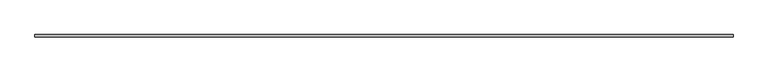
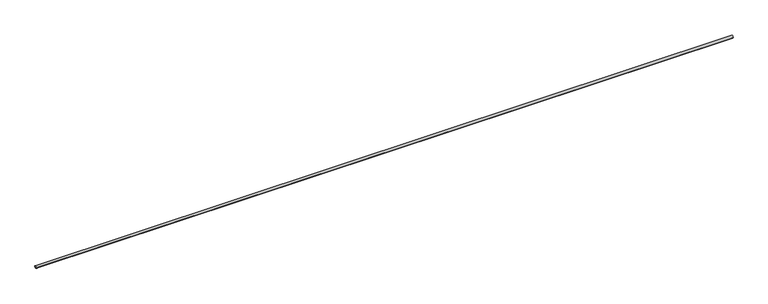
"""IFC4 building model written with IfcOpenShell, lengths in millimetres: railing geometry, Corrimão em aço."""

import ifcopenshell
import ifcopenshell.guid

model = None  # the IFC model being written
_history = None  # IfcOwnerHistory: only IFC2X3 demands one
_inside = {}  # id of a spatial element -> (the spatial element, [elements in it])
_under = {}  # id of a project, library or spatial element -> (it, [spatial elements below it])
_declared = {}  # id of a project -> (the project, [libraries it declares])
_typed = {}  # id of a type object -> (the type object, [elements of that type])
_made_of = {}  # id of a material, layer set ... -> (it, [elements and type objects made of it])


def new_model(schema):
    """Start an empty IFC model of exactly this schema.

    Asked for "IFC4X3", IfcOpenShell would pick the latest addendum, in which some entities
    have other attributes; the version numbers below select the first issue.
    IFC2X3 requires an IfcOwnerHistory on every rooted entity: one is made here for all.
    """
    global model, _history
    if schema == "IFC4X3":
        model = ifcopenshell.file(schema_version=(4, 3, 0, 0))
    else:
        model = ifcopenshell.file(schema=schema)
    _inside.clear()
    _under.clear()
    _declared.clear()
    _typed.clear()
    _made_of.clear()
    _history = None
    if model.schema == "IFC2X3":
        org = make("IfcOrganization", Name="unknown")
        user = make(
            "IfcPersonAndOrganization",
            ThePerson=make("IfcPerson", FamilyName="unknown"),
            TheOrganization=org,
        )
        app = make(
            "IfcApplication",
            ApplicationDeveloper=org,
            Version="unknown",
            ApplicationFullName="unknown",
            ApplicationIdentifier="unknown",
        )
        _history = make(
            "IfcOwnerHistory",
            OwningUser=user,
            OwningApplication=app,
            ChangeAction="ADDED",
            CreationDate=0,
        )
    return model


def make(cls, **values):
    """One entity of the class cls with the attributes given. An attribute that is None is left unset."""
    return model.create_entity(
        cls, **{name: value for name, value in values.items() if value is not None}
    )


def rooted(cls, **values):
    """An entity with a GlobalId (a new one), such as an element, a storey or a relation."""
    return make(cls, GlobalId=ifcopenshell.guid.new(), OwnerHistory=_history, **values)


def si_unit(unit_type, name, prefix=None):
    """IfcSIUnit, for example si_unit("LENGTHUNIT", "METRE", prefix="MILLI")."""
    return make("IfcSIUnit", UnitType=unit_type, Prefix=prefix, Name=name)


def assignment(units):
    """IfcUnitAssignment: the units of a project."""
    return None if units is None else make("IfcUnitAssignment", Units=units)


def point(xyz):
    """IfcCartesianPoint."""
    return None if xyz is None else make("IfcCartesianPoint", Coordinates=xyz)


def direction(xyz):
    """IfcDirection."""
    return None if xyz is None else make("IfcDirection", DirectionRatios=xyz)


def frame(location, z_axis=None, x_axis=None):
    """IfcAxis2Placement3D, a coordinate frame: its origin and axes. An axis left out is left unset."""
    return make(
        "IfcAxis2Placement3D",
        Location=point(location),
        Axis=direction(z_axis),
        RefDirection=direction(x_axis),
    )


def frame_2d(location, x_axis=None):
    """IfcAxis2Placement2D, a coordinate frame in the plane: its origin and x axis."""
    return make(
        "IfcAxis2Placement2D", Location=point(location), RefDirection=direction(x_axis)
    )


def origin():
    """The frame at (0, 0, 0) with its axes left unset."""
    return frame((0.0, 0.0, 0.0))


def place(relative_to, where):
    """IfcLocalPlacement: puts the frame where relative to a parent placement (None: the world)."""
    return make(
        "IfcLocalPlacement", PlacementRelTo=relative_to, RelativePlacement=where
    )


def context(
    kind, dimensions, precision=None, world=None, true_north=None, identifier=None
):
    """IfcGeometricRepresentationContext, for example the 3D "Model" context."""
    return make(
        "IfcGeometricRepresentationContext",
        ContextIdentifier=identifier,
        ContextType=kind,
        CoordinateSpaceDimension=dimensions,
        Precision=precision,
        WorldCoordinateSystem=world,
        TrueNorth=true_north,
    )


def project(units=None, contexts=None):
    """IfcProject with its units and contexts."""
    return rooted(
        "IfcProject",
        Name="project",
        RepresentationContexts=contexts,
        UnitsInContext=assignment(units),
    )


def spatial(cls, under=None, at=None, **own):
    """A site, building, storey or space (cls), placed at a placement, below another one or the project."""
    s = rooted(cls, ObjectPlacement=at, **own)
    if under is not None:
        _under.setdefault(under.id(), (under, []))[1].append(s)
    return s


def circle_curve(where, radius):
    """IfcCircle in the frame where."""
    return make("IfcCircle", Position=where, Radius=radius)


def trimmed(basis, trim1, trim2, sense, master):
    """IfcTrimmedCurve: the piece of a basis curve between two trims."""
    return make(
        "IfcTrimmedCurve",
        BasisCurve=basis,
        Trim1=trim1,
        Trim2=trim2,
        SenseAgreement=sense,
        MasterRepresentation=master,
    )


def segment(curve, same_sense, transition):
    """IfcCompositeCurveSegment."""
    return make(
        "IfcCompositeCurveSegment",
        Transition=transition,
        SameSense=same_sense,
        ParentCurve=curve,
    )


def composite_curve(segments, self_intersect=None):
    """IfcCompositeCurve: segments joined end to end."""
    return make("IfcCompositeCurve", Segments=segments, SelfIntersect=self_intersect)


def outline(outer, holes=None, kind="AREA"):
    """IfcArbitraryClosedProfileDef: a profile drawn as a closed curve; with holes, ...WithVoids."""
    if holes is None:
        return make("IfcArbitraryClosedProfileDef", ProfileType=kind, OuterCurve=outer)
    return make(
        "IfcArbitraryProfileDefWithVoids",
        ProfileType=kind,
        OuterCurve=outer,
        InnerCurves=holes,
    )


def extrude(swept, where, along, depth):
    """IfcExtrudedAreaSolid: the profile swept, set in the frame where, extruded along a direction by depth."""
    return make(
        "IfcExtrudedAreaSolid",
        SweptArea=swept,
        Position=where,
        ExtrudedDirection=direction(along),
        Depth=depth,
    )


def shape(context_of_items, identifier, shape_type, items):
    """IfcShapeRepresentation: the items that make up one representation, for example the "Body"."""
    return make(
        "IfcShapeRepresentation",
        ContextOfItems=context_of_items,
        RepresentationIdentifier=identifier,
        RepresentationType=shape_type,
        Items=items,
    )


def source(mapping_origin, context_of_items, identifier, shape_type, items):
    """IfcRepresentationMap: a shape defined once, which mapped items show again and again."""
    return make(
        "IfcRepresentationMap",
        MappingOrigin=mapping_origin,
        MappedRepresentation=shape(context_of_items, identifier, shape_type, items),
    )


def transform(
    local_origin,
    x_axis=None,
    y_axis=None,
    z_axis=None,
    scale=None,
    scale2=None,
    scale3=None,
    uniform=True,
):
    """IfcCartesianTransformationOperator3D, or its non-uniform kind. x_axis, y_axis, z_axis: its Axis1, 2, 3."""
    if uniform:
        return make(
            "IfcCartesianTransformationOperator3D",
            Axis1=direction(x_axis),
            Axis2=direction(y_axis),
            LocalOrigin=point(local_origin),
            Scale=scale,
            Axis3=direction(z_axis),
        )
    return make(
        "IfcCartesianTransformationOperator3DnonUniform",
        Axis1=direction(x_axis),
        Axis2=direction(y_axis),
        LocalOrigin=point(local_origin),
        Scale=scale,
        Axis3=direction(z_axis),
        Scale2=scale2,
        Scale3=scale3,
    )


def mapped(mapping_source, mapping_target):
    """IfcMappedItem: shows the shape of a source again, moved by a transform."""
    return make(
        "IfcMappedItem", MappingSource=mapping_source, MappingTarget=mapping_target
    )


def made_of(thing, what):
    """Note that an element or type object is made of a material, layer set ...; save() writes the relation."""
    if what is not None:
        _made_of.setdefault(what.id(), (what, []))[1].append(thing)
    return thing


def element(
    cls,
    number,
    at=None,
    inside=None,
    cuts=None,
    type_object=None,
    material=None,
    context=None,
    identifier="Body",
    shape_type=None,
    held_by="IfcProductDefinitionShape",
    body=None,
    shapes=None,
    **own,
):
    """One element of the class cls, such as IfcWall. Its Tag is "e" and its number.

    at: its placement. inside: the storey or other place that contains it. cuts: it is an
    opening in that element (IfcRelVoidsElement). A single representation is given by context,
    identifier, shape_type and body (its items); several are given by shapes. held_by: the class
    of the entity that holds the representations. save() writes the other relations.
    """
    e = rooted(cls, Tag="e%d" % number, ObjectPlacement=at, **own)
    if body is not None:
        shapes = [shape(context, identifier, shape_type, body)]
    if shapes is not None:
        e.Representation = make(held_by, Representations=shapes)
    if inside is not None:
        _inside.setdefault(inside.id(), (inside, []))[1].append(e)
    if cuts is not None:
        rooted(
            "IfcRelVoidsElement", RelatingBuildingElement=cuts, RelatedOpeningElement=e
        )
    if type_object is not None:
        _typed.setdefault(type_object.id(), (type_object, []))[1].append(e)
    return made_of(e, material)


def aggregate(whole, parts):
    """IfcRelAggregates: a whole, such as a stair, and the parts it consists of."""
    return rooted("IfcRelAggregates", RelatingObject=whole, RelatedObjects=parts)


def save(model, path):
    """Write the relations noted so far, then the file.

    IfcRelAggregates (storeys below a building ...), IfcRelContainedInSpatialStructure (elements
    in a storey), IfcRelDefinesByType, IfcRelAssociatesMaterial and IfcRelDeclares: one each for
    every whole, place, type object, material and project.
    """
    for whole, parts in _under.values():
        aggregate(whole, parts)
    for where, things in _inside.values():
        rooted(
            "IfcRelContainedInSpatialStructure",
            RelatedElements=things,
            RelatingStructure=where,
        )
    for kind, things in _typed.values():
        rooted("IfcRelDefinesByType", RelatedObjects=things, RelatingType=kind)
    for what, things in _made_of.values():
        rooted("IfcRelAssociatesMaterial", RelatedObjects=things, RelatingMaterial=what)
    for by, libraries in _declared.values():
        rooted("IfcRelDeclares", RelatingContext=by, RelatedDefinitions=libraries)
    model.write(path)


def railing_11618584(model_context):
    return source(origin(), model_context, "Body", "SweptSolid", [
        extrude(outline(composite_curve([segment(trimmed(circle_curve(frame_2d((-11037.0637549, 880.0)), 20.0), [point((-11017.0637549, 880.0))], [point((-11057.0637549, 880.0))], False, "CARTESIAN"), True, "CONTINUOUS"), segment(trimmed(circle_curve(frame_2d((-11037.0637549, 880.0)), 20.0), [point((-11057.0637549, 880.0))], [point((-11017.0637549, 880.0))], False, "CARTESIAN"), True, "CONTINUOUS")], self_intersect=False)), frame((-8967.3834094, 0.0, 0.0), z_axis=(1.0, 0.0, 0.0), x_axis=(0.0, 1.0, 0.0)), (0.0, 0.0, 1.0), 11190.0),
    ])


if __name__ == "__main__":
    model = new_model("IFC4")
    model_context = context("Model", 3, world=origin())
    ifc_project = project(units=[si_unit("LENGTHUNIT", "METRE", prefix="MILLI")], contexts=[model_context])
    site = spatial("IfcSite", under=ifc_project)
    building = spatial("IfcBuilding", under=site)
    placement = place(None, origin())
    railing_shape = railing_11618584(model_context)
    element("IfcRailing", 1, ObjectType="Corrimão em aço", at=placement, inside=building, context=model_context, shape_type="MappedRepresentation", body=[
        mapped(railing_shape, transform((0.0, 0.0, 0.0), x_axis=(1.0, 0.0, 0.0), y_axis=(0.0, 1.0, 0.0), z_axis=(0.0, 0.0, 1.0))),
    ])
    save(model, "model.ifc")
